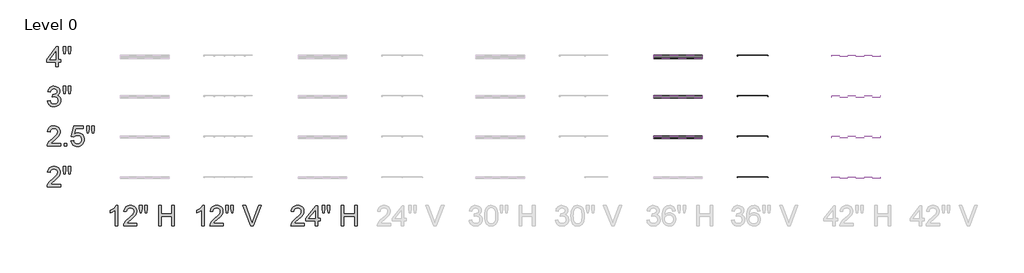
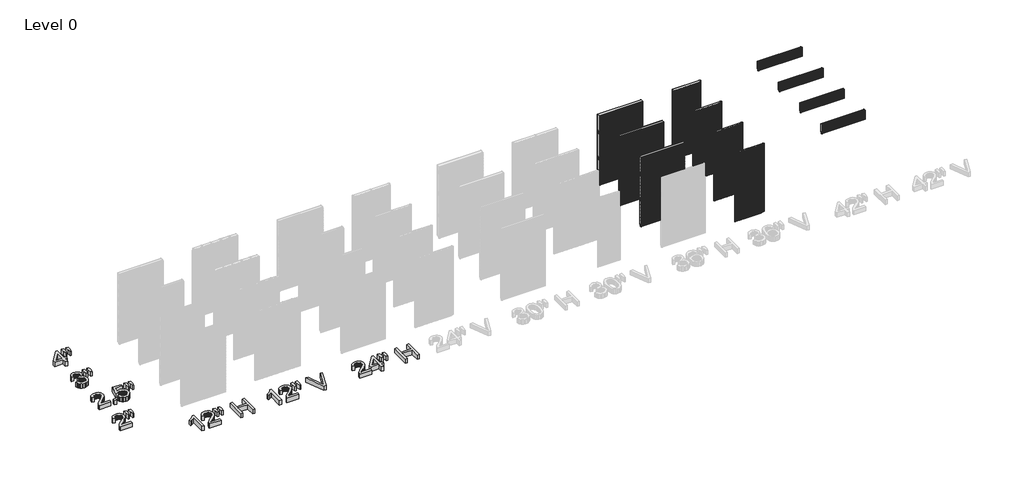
# One storey, part 2 of 5: 17 plates, 7 proxies.
"""IFC4 building model written with IfcOpenShell, lengths in millimetres."""

from ifc_helpers import new_model, si_unit, origin, origin_with_axes, place, context, project, spatial, polyline, outline, extrude, transform, mapped, element, save
from components import plate_b97aee9c, plate_4d02904b, plate_efaa990c, plate_620f6e40, plate_b1f4f1eb, plate_d8378e91, plate_09c6d2a2, plate_baafb094, plate_5e6ddfeb, plate_7fbdcfde, plate_18ae859f, plate_464a89f8, plate_1cd7e0af, plate_575d542c, plate_975cc697, plate_d0f07226, plate_676ee9c5, plate_adb39f1a

model = new_model("IFC4")

# Units and contexts
model_context = context("Model", 3, world=origin())
ifc_project = project(units=[si_unit("LENGTHUNIT", "METRE", prefix="MILLI")], contexts=[model_context])

# Site, building, storey
site = spatial("IfcSite", under=ifc_project)
building = spatial("IfcBuilding", under=site)
storey = spatial("IfcBuildingStorey", under=building, Name="Level 0", Elevation=0.0)

# Proxies
placement = place(None, origin())
element("IfcBuildingElementProxy", 1, Name="24\" Arial", ObjectType="24\" Arial", at=placement, inside=storey, context=model_context, shape_type="SweptSolid", body=[
    extrude(outline(polyline([(-32312.5108068, 10658.7692936), (-32312.5108068, 10582.6275201), (-32712.2551178, 10582.6275201), (-32710.5820807, 10609.433291), (-32704.0758257, 10635.1237038), (-32685.3006325, 10676.1502893), (-32657.8256469, 10715.949981), (-32618.0817231, 10757.6086027), (-32562.4997156, 10804.2119782), (-32480.3350088, 10877.1935707), (-32431.0361847, 10931.0653626), (-32416.657361, 10953.075094), (-32406.3867727, 10974.7873966), (-32400.2244197, 10996.2022704), (-32398.170302, 11017.3197154), (-32400.1082366, 11037.18703), (-32405.9220402, 11055.4463701), (-32415.6117129, 11072.0977357), (-32429.1772547, 11087.1411269), (-32445.8657989, 11099.6006053), (-32464.9244789, 11108.5002328), (-32486.3532947, 11113.8400093), (-32510.1522463, 11115.6199347), (-32535.2245649, 11113.8818352), (-32557.6479082, 11108.6675365), (-32577.4222763, 11099.9770386), (-32594.5476691, 11087.8103417), (-32608.401345, 11072.5764102), (-32618.3605626, 11054.6842088), (-32624.4253218, 11034.1337374), (-32626.5956226, 11010.9249962), (-32702.7373961, 11020.4427178), (-32696.1893151, 11059.7497931), (-32684.278221, 11094.0935251), (-32667.0041138, 11123.4739141), (-32644.3669935, 11147.8909598), (-32616.8873605, 11167.0844123), (-32585.0857153, 11180.7940212), (-32548.9620577, 11189.0197865), (-32508.5163878, 11191.7617083), (-32467.7082266, 11188.713063), (-32431.3893814, 11179.5671273), (-32399.5598522, 11164.3239012), (-32372.219639, 11142.9833846), (-32350.2610281, 11117.1256681), (-32334.5763061, 11088.3308421), (-32325.1654729, 11056.5989067), (-32322.0285285, 11021.9298619), (-32325.4117811, 10985.5134228), (-32335.561539, 10949.72902), (-32353.5745709, 10913.3311702), (-32380.5476454, 10875.0743905), (-32423.5446967, 10829.4004799), (-32489.6296589, 10770.7512379), (-32577.2224413, 10697.5093952), (-32611.575468, 10658.7692936), (-32312.5108068, 10658.7692936)])), origin_with_axes(), (0.0, 0.0, 1.0), 152.4),
    extrude(outline(polyline([(-32217.7797331, 10972.8541094), (-32236.3690333, 11090.4872009), (-32236.3690333, 11191.7617083), (-32160.2272598, 11191.7617083), (-32160.2272598, 11090.4872009), (-32176.8832727, 10972.8541094), (-32217.7797331, 10972.8541094)])), origin_with_axes(), (0.0, 0.0, 1.0), 152.4),
    extrude(outline(polyline([(-32065.9423293, 10972.8541094), (-32084.0854862, 11090.4872009), (-32084.0854862, 11191.7617083), (-32007.9437127, 11191.7617083), (-32007.9437127, 11090.4872009), (-32025.7894409, 10972.8541094), (-32065.9423293, 10972.8541094)])), origin_with_axes(), (0.0, 0.0, 1.0), 152.4),
])
element("IfcBuildingElementProxy", 2, Name="24\" Arial", ObjectType="24\" Arial", at=placement, inside=storey, context=model_context, shape_type="SweptSolid", body=[
    extrude(outline(polyline([(-32312.5108068, 11877.9692936), (-32312.5108068, 11801.8275201), (-32712.2551178, 11801.8275201), (-32710.5820807, 11828.633291), (-32704.0758257, 11854.3237038), (-32685.3006325, 11895.3502893), (-32657.8256469, 11935.149981), (-32618.0817231, 11976.8086027), (-32562.4997156, 12023.4119782), (-32480.3350088, 12096.3935707), (-32431.0361847, 12150.2653626), (-32416.657361, 12172.275094), (-32406.3867727, 12193.9873966), (-32400.2244197, 12215.4022704), (-32398.170302, 12236.5197154), (-32400.1082366, 12256.38703), (-32405.9220402, 12274.6463701), (-32415.6117129, 12291.2977357), (-32429.1772547, 12306.3411269), (-32445.8657989, 12318.8006053), (-32464.9244789, 12327.7002328), (-32486.3532947, 12333.0400093), (-32510.1522463, 12334.8199347), (-32535.2245649, 12333.0818352), (-32557.6479082, 12327.8675365), (-32577.4222763, 12319.1770386), (-32594.5476691, 12307.0103417), (-32608.401345, 12291.7764102), (-32618.3605626, 12273.8842088), (-32624.4253218, 12253.3337374), (-32626.5956226, 12230.1249962), (-32702.7373961, 12239.6427178), (-32696.1893151, 12278.9497931), (-32684.278221, 12313.2935251), (-32667.0041138, 12342.6739141), (-32644.3669935, 12367.0909598), (-32616.8873605, 12386.2844123), (-32585.0857153, 12399.9940212), (-32548.9620577, 12408.2197865), (-32508.5163878, 12410.9617083), (-32467.7082266, 12407.913063), (-32431.3893814, 12398.7671273), (-32399.5598522, 12383.5239012), (-32372.219639, 12362.1833846), (-32350.2610281, 12336.3256681), (-32334.5763061, 12307.5308421), (-32325.1654729, 12275.7989067), (-32322.0285285, 12241.1298619), (-32325.4117811, 12204.7134228), (-32335.561539, 12168.92902), (-32353.5745709, 12132.5311702), (-32380.5476454, 12094.2743905), (-32423.5446967, 12048.6004799), (-32489.6296589, 11989.9512379), (-32577.2224413, 11916.7093952), (-32611.575468, 11877.9692936), (-32312.5108068, 11877.9692936)])), origin_with_axes(), (0.0, 0.0, 1.0), 152.4),
    extrude(outline(polyline([(-32198.2981465, 11801.8275201), (-32198.2981465, 11877.9692936), (-32122.156373, 11877.9692936), (-32122.156373, 11801.8275201), (-32198.2981465, 11801.8275201)])), origin_with_axes(), (0.0, 0.0, 1.0), 152.4),
    extrude(outline(polyline([(-31998.425991, 11963.6287888), (-31922.2842175, 11973.1465105), (-31916.5958917, 11948.6690495), (-31908.3050638, 11927.4354214), (-31897.4117339, 11909.4456262), (-31883.915902, 11894.6996638), (-31867.845452, 11883.2161236), (-31849.2282678, 11875.0135949), (-31828.0643496, 11870.0920777), (-31804.3536972, 11868.4515719), (-31775.3543889, 11870.7334085), (-31749.7755119, 11877.5789183), (-31727.6170661, 11888.9881013), (-31708.8790515, 11904.9609575), (-31693.9797274, 11924.7074416), (-31683.3373531, 11947.4375084), (-31676.9519285, 11973.1511579), (-31674.8234536, 12001.84839), (-31676.817156, 12028.970179), (-31682.7982634, 12053.0805013), (-31692.7667756, 12074.179357), (-31706.7226927, 12092.2667461), (-31724.7124879, 12106.7756948), (-31746.7826346, 12117.1392297), (-31772.9331326, 12123.3573506), (-31803.163982, 12125.4300576), (-31840.1009215, 12122.1211621), (-31870.0111054, 12112.1944758), (-31893.8983562, 12096.9884283), (-31912.7664958, 12077.8414491), (-31988.9082694, 12087.3591708), (-31922.2842175, 12401.4439866), (-31627.2348451, 12401.4439866), (-31627.2348451, 12325.3022131), (-31860.7164553, 12325.3022131), (-31893.2849093, 12157.5523683), (-31866.4140758, 12176.8108833), (-31838.8926169, 12190.5669654), (-31810.7205325, 12198.8206147), (-31781.8978226, 12201.5718311), (-31744.8168161, 12198.1606945), (-31710.7565708, 12187.9272848), (-31679.7170869, 12170.8716018), (-31651.6983642, 12146.9936458), (-31628.5035649, 12117.7526766), (-31611.9358511, 12084.6079544), (-31601.9952228, 12047.5594791), (-31598.6816801, 12006.6072509), (-31601.6652628, 11967.1607559), (-31610.6160108, 11930.4654773), (-31625.5339242, 11896.5214152), (-31646.4190029, 11865.3285695), (-31678.0579918, 11833.3828572), (-31714.976342, 11810.5644912), (-31757.1740534, 11796.8734716), (-31804.651126, 11792.3097984), (-31843.9442593, 11795.2422605), (-31879.4358806, 11804.0396468), (-31911.1259901, 11818.7019574), (-31939.0145877, 11839.2291921), (-31962.2186816, 11864.5989395), (-31979.8552802, 11893.7887881), (-31991.9243833, 11926.7987379), (-31998.425991, 11963.6287888)])), origin_with_axes(), (0.0, 0.0, 1.0), 152.4),
    extrude(outline(polyline([(-31513.4683281, 12192.0541094), (-31532.0576283, 12309.6872009), (-31532.0576283, 12410.9617083), (-31455.9158547, 12410.9617083), (-31455.9158547, 12309.6872009), (-31472.5718677, 12192.0541094), (-31513.4683281, 12192.0541094)])), origin_with_axes(), (0.0, 0.0, 1.0), 152.4),
    extrude(outline(polyline([(-31361.6309242, 12192.0541094), (-31379.7740812, 12309.6872009), (-31379.7740812, 12410.9617083), (-31303.6323077, 12410.9617083), (-31303.6323077, 12309.6872009), (-31321.4780359, 12192.0541094), (-31361.6309242, 12192.0541094)])), origin_with_axes(), (0.0, 0.0, 1.0), 152.4),
])
element("IfcBuildingElementProxy", 3, Name="24\" Arial", ObjectType="24\" Arial", at=placement, inside=storey, context=model_context, shape_type="SweptSolid", body=[
    extrude(outline(polyline([(-32702.7373961, 13157.4287888), (-32626.5956226, 13166.9465105), (-32609.5492343, 13119.0976519), (-32598.0563995, 13101.0009682), (-32584.5838042, 13086.7894482), (-32568.8247249, 13076.0541273), (-32550.4724383, 13068.386041), (-32529.5269444, 13063.7851892), (-32505.988243, 13062.2515719), (-32478.4017216, 13064.3614575), (-32453.7894881, 13070.6911142), (-32432.1515427, 13081.2405421), (-32413.4878854, 13096.0097411), (-32398.4584362, 13113.8926478), (-32387.7231153, 13133.783199), (-32381.2819228, 13155.6813946), (-32379.1348586, 13179.5872347), (-32381.2633335, 13202.35448), (-32387.6487581, 13223.0676078), (-32398.2911325, 13241.7266178), (-32413.1904565, 13258.3315102), (-32431.3707921, 13271.9621145), (-32451.8562009, 13281.6982605), (-32474.6466829, 13287.5399481), (-32499.7422382, 13289.4871773), (-32523.7967926, 13287.4051757), (-32553.1307083, 13281.1591708), (-32544.6539874, 13357.3009443), (-32532.4594065, 13356.4086579), (-32486.8412638, 13361.8739122), (-32446.0563393, 13378.2696749), (-32429.2702012, 13390.6687381), (-32417.2801026, 13406.0049108), (-32410.0860434, 13424.2781929), (-32407.6880237, 13445.4885844), (-32409.4261233, 13462.7069236), (-32414.640422, 13478.3730564), (-32423.3309198, 13492.4869825), (-32435.4976168, 13505.0487021), (-32450.4062355, 13515.3611164), (-32467.3224987, 13522.7271266), (-32486.2464062, 13527.1467327), (-32507.1779582, 13528.6199347), (-32528.0537423, 13527.1327907), (-32547.107775, 13522.6713587), (-32564.3400563, 13515.2356386), (-32579.7505861, 13504.8256305), (-32592.9582839, 13491.4413344), (-32603.5820689, 13475.0827502), (-32611.6219413, 13455.7498781), (-32617.0779009, 13433.4427178), (-32693.2196744, 13442.9604395), (-32684.1945692, 13479.311816), (-32670.8009784, 13511.3318856), (-32653.0389021, 13539.0206482), (-32630.9083402, 13562.3781039), (-32605.1063916, 13580.9209308), (-32576.3301549, 13594.1658072), (-32544.5796302, 13602.112733), (-32509.8548175, 13604.7617083), (-32461.9873695, 13599.5381149), (-32418.0236746, 13583.8673349), (-32380.95661, 13559.1435656), (-32353.7790532, 13526.7610047), (-32337.1044509, 13489.4522793), (-32331.5462502, 13449.9500164), (-32336.8256114, 13413.1432021), (-32352.6636952, 13379.7568189), (-32378.8374298, 13351.3151897), (-32415.1237438, 13329.3426369), (-32389.749349, 13321.4050057), (-32367.4607781, 13310.0841219), (-32348.258031, 13295.3799854), (-32332.1411078, 13277.2925964), (-32319.3888479, 13256.2680979), (-32310.2800908, 13232.7526332), (-32304.8148365, 13206.7462022), (-32302.9930851, 13178.248805), (-32306.6365879, 13139.6202393), (-32317.5670964, 13104.0403187), (-32335.7846106, 13071.5090434), (-32361.2891305, 13042.0264134), (-32392.3611457, 13017.5628943), (-32427.2811461, 13000.0889522), (-32466.0491316, 12989.6045869), (-32508.6651022, 12986.1097984), (-32547.1821322, 12989.0933811), (-32582.2787309, 12998.0441291), (-32613.9548984, 13012.9620425), (-32642.2106347, 13033.8471213), (-32665.9026978, 13059.4724716), (-32683.8878457, 13088.6111996), (-32696.1660785, 13121.2633054), (-32702.7373961, 13157.4287888)])), origin_with_axes(), (0.0, 0.0, 1.0), 152.4),
    extrude(outline(polyline([(-32217.7797331, 13385.8541094), (-32236.3690333, 13503.4872009), (-32236.3690333, 13604.7617083), (-32160.2272598, 13604.7617083), (-32160.2272598, 13503.4872009), (-32176.8832727, 13385.8541094), (-32217.7797331, 13385.8541094)])), origin_with_axes(), (0.0, 0.0, 1.0), 152.4),
    extrude(outline(polyline([(-32065.9423293, 13385.8541094), (-32084.0854862, 13503.4872009), (-32084.0854862, 13604.7617083), (-32007.9437127, 13604.7617083), (-32007.9437127, 13503.4872009), (-32025.7894409, 13385.8541094), (-32065.9423293, 13385.8541094)])), origin_with_axes(), (0.0, 0.0, 1.0), 152.4),
])
element("IfcBuildingElementProxy", 4, Name="24\" Arial", ObjectType="24\" Arial", at=placement, inside=storey, context=model_context, shape_type="SweptSolid", body=[
    extrude(outline(polyline([(-32455.2766321, 14189.4275201), (-32455.2766321, 14332.1933455), (-32731.2905611, 14332.1933455), (-32731.2905611, 14408.335119), (-32436.2411888, 14789.0439866), (-32379.1348586, 14789.0439866), (-32379.1348586, 14408.335119), (-32302.9930851, 14408.335119), (-32302.9930851, 14332.1933455), (-32379.1348586, 14332.1933455), (-32379.1348586, 14189.4275201), (-32455.2766321, 14189.4275201)]), holes=[polyline([(-32455.2766321, 14408.335119), (-32455.2766321, 14643.601302), (-32637.6004883, 14408.335119), (-32455.2766321, 14408.335119)])]), origin_with_axes(), (0.0, 0.0, 1.0), 152.4),
    extrude(outline(polyline([(-32217.7797331, 14579.6541094), (-32236.3690333, 14697.2872009), (-32236.3690333, 14798.5617083), (-32160.2272598, 14798.5617083), (-32160.2272598, 14697.2872009), (-32176.8832727, 14579.6541094), (-32217.7797331, 14579.6541094)])), origin_with_axes(), (0.0, 0.0, 1.0), 152.4),
    extrude(outline(polyline([(-32065.9423293, 14579.6541094), (-32084.0854862, 14697.2872009), (-32084.0854862, 14798.5617083), (-32007.9437127, 14798.5617083), (-32007.9437127, 14697.2872009), (-32025.7894409, 14579.6541094), (-32065.9423293, 14579.6541094)])), origin_with_axes(), (0.0, 0.0, 1.0), 152.4),
])
element("IfcBuildingElementProxy", 5, Name="24\" Arial", ObjectType="24\" Arial", at=placement, inside=storey, context=model_context, shape_type="SweptSolid", body=[
    extrude(outline(polyline([(-30589.8489204, 9409.440542), (-30665.9906939, 9409.440542), (-30665.9906939, 9884.1369113), (-30697.7783972, 9858.4279091), (-30738.1171786, 9832.7560856), (-30780.4636044, 9810.3188003), (-30818.2742409, 9794.3134128), (-30818.2742409, 9866.2911831), (-30758.4724623, 9898.8224584), (-30706.6640827, 9937.5253814), (-30665.8233902, 9978.682092), (-30638.9246728, 10018.5747302), (-30589.8489204, 10018.5747302), (-30589.8489204, 9409.440542)])), origin_with_axes(), (0.0, 0.0, 1.0), 152.4),
    extrude(outline(polyline([(-30018.785619, 9485.5823155), (-30018.785619, 9409.440542), (-30418.52993, 9409.440542), (-30416.8568929, 9436.2463129), (-30410.3506379, 9461.9367257), (-30391.5754447, 9502.9633112), (-30364.100459, 9542.7630029), (-30324.3565353, 9584.4216246), (-30268.7745278, 9631.0250001), (-30186.609821, 9704.0065926), (-30137.3109969, 9757.8783845), (-30122.9321732, 9779.8881159), (-30112.6615849, 9801.6004185), (-30106.4992319, 9823.0152923), (-30104.4451142, 9844.1327373), (-30106.3830487, 9864.0000519), (-30112.1968524, 9882.259392), (-30121.8865251, 9898.9107576), (-30135.4520669, 9913.9541488), (-30152.1406111, 9926.4136272), (-30171.1992911, 9935.3132547), (-30192.6281069, 9940.6530311), (-30216.4270585, 9942.4329566), (-30241.4993771, 9940.6948571), (-30263.9227204, 9935.4805584), (-30283.6970885, 9926.7900605), (-30300.8224813, 9914.6233636), (-30314.6761572, 9899.3894321), (-30324.6353748, 9881.4972307), (-30330.700134, 9860.9467593), (-30332.8704348, 9837.7380181), (-30409.0122083, 9847.2557397), (-30402.4641273, 9886.562815), (-30390.5530332, 9920.906547), (-30373.278926, 9950.286936), (-30350.6418057, 9974.7039817), (-30323.1621727, 9993.8974342), (-30291.3605275, 10007.6070431), (-30255.2368699, 10015.8328084), (-30214.7912, 10018.5747302), (-30173.9830388, 10015.5260849), (-30137.6641936, 10006.3801492), (-30105.8346644, 9991.1369231), (-30078.4944512, 9969.7964065), (-30056.5358403, 9943.93869), (-30040.8511183, 9915.143864), (-30031.4402851, 9883.4119286), (-30028.3033407, 9848.7428838), (-30031.6865933, 9812.3264447), (-30041.8363512, 9776.5420419), (-30059.8493831, 9740.1441921), (-30086.8224576, 9701.8874124), (-30129.8195089, 9656.2135018), (-30195.9044711, 9597.5642598), (-30283.4972535, 9524.3224171), (-30317.8502802, 9485.5823155), (-30018.785619, 9485.5823155)])), origin_with_axes(), (0.0, 0.0, 1.0), 152.4),
    extrude(outline(polyline([(-29924.0545453, 9799.6671313), (-29942.6438455, 9917.3002228), (-29942.6438455, 10018.5747302), (-29866.502072, 10018.5747302), (-29866.502072, 9917.3002228), (-29883.1580849, 9799.6671313), (-29924.0545453, 9799.6671313)])), origin_with_axes(), (0.0, 0.0, 1.0), 152.4),
    extrude(outline(polyline([(-29772.2171415, 9799.6671313), (-29790.3602984, 9917.3002228), (-29790.3602984, 10018.5747302), (-29714.2185249, 10018.5747302), (-29714.2185249, 9917.3002228), (-29732.0642531, 9799.6671313), (-29772.2171415, 9799.6671313)])), origin_with_axes(), (0.0, 0.0, 1.0), 152.4),
    extrude(outline(polyline([(-29371.5805441, 9409.440542), (-29371.5805441, 10018.5747302), (-29295.4387706, 10018.5747302), (-29295.4387706, 9771.1139662), (-28971.8362331, 9771.1139662), (-28971.8362331, 10018.5747302), (-28895.6944596, 10018.5747302), (-28895.6944596, 9409.440542), (-28971.8362331, 9409.440542), (-28971.8362331, 9694.9721927), (-29295.4387706, 9694.9721927), (-29295.4387706, 9409.440542), (-29371.5805441, 9409.440542)])), origin_with_axes(), (0.0, 0.0, 1.0), 152.4),
])
element("IfcBuildingElementProxy", 6, Name="24\" Arial", ObjectType="24\" Arial", at=placement, inside=storey, context=model_context, shape_type="SweptSolid", body=[
    extrude(outline(polyline([(-27999.0489204, 9409.440542), (-28075.1906939, 9409.440542), (-28075.1906939, 9884.1369113), (-28106.9783972, 9858.4279091), (-28147.3171786, 9832.7560856), (-28189.6636044, 9810.3188003), (-28227.4742409, 9794.3134128), (-28227.4742409, 9866.2911831), (-28167.6724623, 9898.8224584), (-28115.8640827, 9937.5253814), (-28075.0233902, 9978.682092), (-28048.1246728, 10018.5747302), (-27999.0489204, 10018.5747302), (-27999.0489204, 9409.440542)])), origin_with_axes(), (0.0, 0.0, 1.0), 152.4),
    extrude(outline(polyline([(-27427.985619, 9485.5823155), (-27427.985619, 9409.440542), (-27827.72993, 9409.440542), (-27826.0568929, 9436.2463129), (-27819.5506379, 9461.9367257), (-27800.7754447, 9502.9633112), (-27773.300459, 9542.7630029), (-27733.5565353, 9584.4216246), (-27677.9745278, 9631.0250001), (-27595.809821, 9704.0065926), (-27546.5109969, 9757.8783845), (-27532.1321732, 9779.8881159), (-27521.8615849, 9801.6004185), (-27515.6992319, 9823.0152923), (-27513.6451142, 9844.1327373), (-27515.5830487, 9864.0000519), (-27521.3968524, 9882.259392), (-27531.0865251, 9898.9107576), (-27544.6520669, 9913.9541488), (-27561.3406111, 9926.4136272), (-27580.3992911, 9935.3132547), (-27601.8281069, 9940.6530311), (-27625.6270585, 9942.4329566), (-27650.6993771, 9940.6948571), (-27673.1227204, 9935.4805584), (-27692.8970885, 9926.7900605), (-27710.0224813, 9914.6233636), (-27723.8761572, 9899.3894321), (-27733.8353748, 9881.4972307), (-27739.900134, 9860.9467593), (-27742.0704348, 9837.7380181), (-27818.2122083, 9847.2557397), (-27811.6641273, 9886.562815), (-27799.7530332, 9920.906547), (-27782.478926, 9950.286936), (-27759.8418057, 9974.7039817), (-27732.3621727, 9993.8974342), (-27700.5605275, 10007.6070431), (-27664.4368699, 10015.8328084), (-27623.9912, 10018.5747302), (-27583.1830388, 10015.5260849), (-27546.8641936, 10006.3801492), (-27515.0346644, 9991.1369231), (-27487.6944512, 9969.7964065), (-27465.7358403, 9943.93869), (-27450.0511183, 9915.143864), (-27440.6402851, 9883.4119286), (-27437.5033407, 9848.7428838), (-27440.8865933, 9812.3264447), (-27451.0363512, 9776.5420419), (-27469.0493831, 9740.1441921), (-27496.0224576, 9701.8874124), (-27539.0195089, 9656.2135018), (-27605.1044711, 9597.5642598), (-27692.6972535, 9524.3224171), (-27727.0502802, 9485.5823155), (-27427.985619, 9485.5823155)])), origin_with_axes(), (0.0, 0.0, 1.0), 152.4),
    extrude(outline(polyline([(-27333.2545453, 9799.6671313), (-27351.8438455, 9917.3002228), (-27351.8438455, 10018.5747302), (-27275.702072, 10018.5747302), (-27275.702072, 9917.3002228), (-27292.3580849, 9799.6671313), (-27333.2545453, 9799.6671313)])), origin_with_axes(), (0.0, 0.0, 1.0), 152.4),
    extrude(outline(polyline([(-27181.4171415, 9799.6671313), (-27199.5602984, 9917.3002228), (-27199.5602984, 10018.5747302), (-27123.4185249, 10018.5747302), (-27123.4185249, 9917.3002228), (-27141.2642531, 9799.6671313), (-27181.4171415, 9799.6671313)])), origin_with_axes(), (0.0, 0.0, 1.0), 152.4),
    extrude(outline(polyline([(-26600.8361184, 9409.440542), (-26843.2405927, 10018.5747302), (-26761.7451007, 10018.5747302), (-26599.4976888, 9579.7185316), (-26566.6318061, 9480.8234547), (-26534.2120666, 9579.7185316), (-26371.5185114, 10018.5747302), (-26290.0230195, 10018.5747302), (-26522.1662001, 9409.440542), (-26600.8361184, 9409.440542)])), origin_with_axes(), (0.0, 0.0, 1.0), 152.4),
])
element("IfcBuildingElementProxy", 7, Name="24\" Arial", ObjectType="24\" Arial", at=placement, inside=storey, context=model_context, shape_type="SweptSolid", body=[
    extrude(outline(polyline([(-24998.7539818, 9485.5823155), (-24998.7539818, 9409.440542), (-25398.4982928, 9409.440542), (-25396.8252557, 9436.2463129), (-25390.3190007, 9461.9367257), (-25371.5438075, 9502.9633112), (-25344.0688218, 9542.7630029), (-25304.3248981, 9584.4216246), (-25248.7428905, 9631.0250001), (-25166.5781838, 9704.0065926), (-25117.2793597, 9757.8783845), (-25102.900536, 9779.8881159), (-25092.6299477, 9801.6004185), (-25086.4675947, 9823.0152923), (-25084.413477, 9844.1327373), (-25086.3514115, 9864.0000519), (-25092.1652152, 9882.259392), (-25101.8548879, 9898.9107576), (-25115.4204297, 9913.9541488), (-25132.1089739, 9926.4136272), (-25151.1676539, 9935.3132547), (-25172.5964697, 9940.6530311), (-25196.3954213, 9942.4329566), (-25221.4677399, 9940.6948571), (-25243.8910832, 9935.4805584), (-25263.6654513, 9926.7900605), (-25280.790844, 9914.6233636), (-25294.64452, 9899.3894321), (-25304.6037376, 9881.4972307), (-25310.6684968, 9860.9467593), (-25312.8387975, 9837.7380181), (-25388.9805711, 9847.2557397), (-25382.4324901, 9886.562815), (-25370.521396, 9920.906547), (-25353.2472888, 9950.286936), (-25330.6101685, 9974.7039817), (-25303.1305355, 9993.8974342), (-25271.3288903, 10007.6070431), (-25235.2052327, 10015.8328084), (-25194.7595628, 10018.5747302), (-25153.9514016, 10015.5260849), (-25117.6325564, 10006.3801492), (-25085.8030272, 9991.1369231), (-25058.462814, 9969.7964065), (-25036.5042031, 9943.93869), (-25020.8194811, 9915.143864), (-25011.4086479, 9883.4119286), (-25008.2717035, 9848.7428838), (-25011.6549561, 9812.3264447), (-25021.804714, 9776.5420419), (-25039.8177459, 9740.1441921), (-25066.7908204, 9701.8874124), (-25109.7878717, 9656.2135018), (-25175.8728339, 9597.5642598), (-25263.4656163, 9524.3224171), (-25297.818643, 9485.5823155), (-24998.7539818, 9485.5823155)])), origin_with_axes(), (0.0, 0.0, 1.0), 152.4),
    extrude(outline(polyline([(-24675.1514443, 9409.440542), (-24675.1514443, 9552.2063674), (-24951.1653733, 9552.2063674), (-24951.1653733, 9628.3481409), (-24656.116001, 10009.0570085), (-24599.0096708, 10009.0570085), (-24599.0096708, 9628.3481409), (-24522.8678973, 9628.3481409), (-24522.8678973, 9552.2063674), (-24599.0096708, 9552.2063674), (-24599.0096708, 9409.440542), (-24675.1514443, 9409.440542)]), holes=[polyline([(-24675.1514443, 9628.3481409), (-24675.1514443, 9863.6143239), (-24857.4753005, 9628.3481409), (-24675.1514443, 9628.3481409)])]), origin_with_axes(), (0.0, 0.0, 1.0), 152.4),
    extrude(outline(polyline([(-24437.6545453, 9799.6671313), (-24456.2438455, 9917.3002228), (-24456.2438455, 10018.5747302), (-24380.102072, 10018.5747302), (-24380.102072, 9917.3002228), (-24396.7580849, 9799.6671313), (-24437.6545453, 9799.6671313)])), origin_with_axes(), (0.0, 0.0, 1.0), 152.4),
    extrude(outline(polyline([(-24285.8171415, 9799.6671313), (-24303.9602984, 9917.3002228), (-24303.9602984, 10018.5747302), (-24227.8185249, 10018.5747302), (-24227.8185249, 9917.3002228), (-24245.6642531, 9799.6671313), (-24285.8171415, 9799.6671313)])), origin_with_axes(), (0.0, 0.0, 1.0), 152.4),
    extrude(outline(polyline([(-23885.1805441, 9409.440542), (-23885.1805441, 10018.5747302), (-23809.0387706, 10018.5747302), (-23809.0387706, 9771.1139662), (-23485.4362331, 9771.1139662), (-23485.4362331, 10018.5747302), (-23409.2944596, 10018.5747302), (-23409.2944596, 9409.440542), (-23485.4362331, 9409.440542), (-23485.4362331, 9694.9721927), (-23809.0387706, 9694.9721927), (-23809.0387706, 9409.440542), (-23885.1805441, 9409.440542)])), origin_with_axes(), (0.0, 0.0, 1.0), 152.4),
])

# Plates
plate_shape = plate_b97aee9c(model_context)
element("IfcPlate", 8, ObjectType="KIP-42-DWHR-R19-CP-Hz-S : Hz 2\"", at=placement, inside=storey, context=model_context, shape_type="MappedRepresentation", body=[
    mapped(plate_shape, transform((-8448.7250935, 10881.8207172, 2133.6), x_axis=(1.0, 0.0, 0.0), y_axis=(0.0, 1.0, 0.0), z_axis=(0.0, 0.0, 1.0))),
])
element("IfcPlate", 9, ObjectType="KIP-42-DWHR-R19-CP-Hz-S : Hz 2.5\"", at=placement, inside=storey, context=model_context, shape_type="MappedRepresentation", body=[
    mapped(plate_shape, transform((-8448.7250935, 12101.0207172, 2133.6), x_axis=(1.0, 0.0, 0.0), y_axis=(0.0, 1.0, 0.0), z_axis=(0.0, 0.0, 1.0))),
])
plate_2_shape = plate_4d02904b(model_context)
plate_3_shape = plate_efaa990c(model_context)
element("IfcPlate", 10, ObjectType="KIP-36-DWHR-R19-CP-Hz-S : Hz 2.5\"", at=placement, inside=storey, context=model_context, shape_type="MappedRepresentation", body=[
    mapped(plate_2_shape, transform((-13782.7250935, 12101.0207172, 0.0), x_axis=(1.0, 0.0, 0.0), y_axis=(0.0, 1.0, 0.0), z_axis=(0.0, 0.0, 1.0))),
    mapped(plate_3_shape, transform((-13782.7250935, 12101.0207172, 0.0), x_axis=(1.0, 0.0, 0.0), y_axis=(0.0, 1.0, 0.0), z_axis=(0.0, 0.0, 1.0))),
])
element("IfcPlate", 11, ObjectType="KIP-36-DWHR-R19-CP-Hz-S : Hz 2.5\"", at=placement, inside=storey, context=model_context, shape_type="MappedRepresentation", body=[
    mapped(plate_2_shape, transform((-13782.7250935, 12101.0207172, 914.4), x_axis=(1.0, 0.0, 0.0), y_axis=(0.0, 1.0, 0.0), z_axis=(0.0, 0.0, 1.0))),
    mapped(plate_3_shape, transform((-13782.7250935, 12101.0207172, 914.4), x_axis=(1.0, 0.0, 0.0), y_axis=(0.0, 1.0, 0.0), z_axis=(0.0, 0.0, 1.0))),
])
plate_4_shape = plate_620f6e40(model_context)
element("IfcPlate", 12, ObjectType="KIP-36-DWHR-R19-CP-Hz-S : Hz 2.5\"", at=placement, inside=storey, context=model_context, shape_type="MappedRepresentation", body=[
    mapped(plate_4_shape, transform((-13782.7250935, 12101.0207172, 1828.8), x_axis=(1.0, 0.0, 0.0), y_axis=(0.0, 1.0, 0.0), z_axis=(0.0, 0.0, 1.0))),
])
element("IfcPlate", 13, ObjectType="KIP-42-DWHR-R19-CP-Hz-S : Hz 3\"", at=placement, inside=storey, context=model_context, shape_type="MappedRepresentation", body=[
    mapped(plate_shape, transform((-8448.7250935, 13320.2207172, 2133.6), x_axis=(1.0, 0.0, 0.0), y_axis=(0.0, 1.0, 0.0), z_axis=(0.0, 0.0, 1.0))),
])
plate_5_shape = plate_b1f4f1eb(model_context)
plate_6_shape = plate_d8378e91(model_context)
element("IfcPlate", 14, ObjectType="KIP-36-DWHR-R19-CP-Hz-S : Hz 3\"", at=placement, inside=storey, context=model_context, shape_type="MappedRepresentation", body=[
    mapped(plate_5_shape, transform((-13782.7250935, 13320.2207172, 0.0), x_axis=(1.0, 0.0, 0.0), y_axis=(0.0, 1.0, 0.0), z_axis=(0.0, 0.0, 1.0))),
    mapped(plate_6_shape, transform((-13782.7250935, 13320.2207172, 0.0), x_axis=(1.0, 0.0, 0.0), y_axis=(0.0, 1.0, 0.0), z_axis=(0.0, 0.0, 1.0))),
])
element("IfcPlate", 15, ObjectType="KIP-36-DWHR-R19-CP-Hz-S : Hz 3\"", at=placement, inside=storey, context=model_context, shape_type="MappedRepresentation", body=[
    mapped(plate_5_shape, transform((-13782.7250935, 13320.2207172, 914.4), x_axis=(1.0, 0.0, 0.0), y_axis=(0.0, 1.0, 0.0), z_axis=(0.0, 0.0, 1.0))),
    mapped(plate_6_shape, transform((-13782.7250935, 13320.2207172, 914.4), x_axis=(1.0, 0.0, 0.0), y_axis=(0.0, 1.0, 0.0), z_axis=(0.0, 0.0, 1.0))),
])
plate_7_shape = plate_09c6d2a2(model_context)
element("IfcPlate", 16, ObjectType="KIP-36-DWHR-R19-CP-Hz-S : Hz 3\"", at=placement, inside=storey, context=model_context, shape_type="MappedRepresentation", body=[
    mapped(plate_7_shape, transform((-13782.7250935, 13320.2207172, 1828.8), x_axis=(1.0, 0.0, 0.0), y_axis=(0.0, 1.0, 0.0), z_axis=(0.0, 0.0, 1.0))),
])
element("IfcPlate", 17, ObjectType="KIP-42-DWHR-R19-CP-Hz-S : Hz 4\"", at=placement, inside=storey, context=model_context, shape_type="MappedRepresentation", body=[
    mapped(plate_shape, transform((-8448.7250935, 14539.4207172, 2133.6), x_axis=(1.0, 0.0, 0.0), y_axis=(0.0, 1.0, 0.0), z_axis=(0.0, 0.0, 1.0))),
])
plate_8_shape = plate_baafb094(model_context)
plate_9_shape = plate_5e6ddfeb(model_context)
element("IfcPlate", 18, ObjectType="KIP-36-DWHR-R19-CP-Hz-S : Hz 4\"", at=placement, inside=storey, context=model_context, shape_type="MappedRepresentation", body=[
    mapped(plate_8_shape, transform((-13782.7250935, 14539.4207172, 0.0), x_axis=(1.0, 0.0, 0.0), y_axis=(0.0, 1.0, 0.0), z_axis=(0.0, 0.0, 1.0))),
    mapped(plate_9_shape, transform((-13782.7250935, 14539.4207172, 0.0), x_axis=(1.0, 0.0, 0.0), y_axis=(0.0, 1.0, 0.0), z_axis=(0.0, 0.0, 1.0))),
])
element("IfcPlate", 19, ObjectType="KIP-36-DWHR-R19-CP-Hz-S : Hz 4\"", at=placement, inside=storey, context=model_context, shape_type="MappedRepresentation", body=[
    mapped(plate_8_shape, transform((-13782.7250935, 14539.4207172, 914.4), x_axis=(1.0, 0.0, 0.0), y_axis=(0.0, 1.0, 0.0), z_axis=(0.0, 0.0, 1.0))),
    mapped(plate_9_shape, transform((-13782.7250935, 14539.4207172, 914.4), x_axis=(1.0, 0.0, 0.0), y_axis=(0.0, 1.0, 0.0), z_axis=(0.0, 0.0, 1.0))),
])
plate_10_shape = plate_7fbdcfde(model_context)
element("IfcPlate", 20, ObjectType="KIP-36-DWHR-R19-CP-Hz-S : Hz 4\"", at=placement, inside=storey, context=model_context, shape_type="MappedRepresentation", body=[
    mapped(plate_10_shape, transform((-13782.7250935, 14539.4207172, 1828.8), x_axis=(1.0, 0.0, 0.0), y_axis=(0.0, 1.0, 0.0), z_axis=(0.0, 0.0, 1.0))),
])
plate_11_shape = plate_18ae859f(model_context)
plate_12_shape = plate_464a89f8(model_context)
element("IfcPlate", 21, ObjectType="KIP-36-DWHR-R19-CP-Vt-S : Vt 2\"", at=placement, inside=storey, context=model_context, shape_type="MappedRepresentation", body=[
    mapped(plate_11_shape, transform((-11555.7413834, 10881.8207172, 0.0), x_axis=(1.0, 0.0, 0.0), y_axis=(0.0, 1.0, 0.0), z_axis=(0.0, 0.0, 1.0))),
    mapped(plate_12_shape, transform((-11555.7413834, 10881.8207172, 0.0), x_axis=(1.0, 0.0, 0.0), y_axis=(0.0, 1.0, 0.0), z_axis=(0.0, 0.0, 1.0))),
])
plate_13_shape = plate_1cd7e0af(model_context)
plate_14_shape = plate_575d542c(model_context)
element("IfcPlate", 22, ObjectType="KIP-36-DWHR-R19-CP-Vt-S : Vt 2.5\"", at=placement, inside=storey, context=model_context, shape_type="MappedRepresentation", body=[
    mapped(plate_13_shape, transform((-11555.7413834, 12101.0207172, 0.0), x_axis=(1.0, 0.0, 0.0), y_axis=(0.0, 1.0, 0.0), z_axis=(0.0, 0.0, 1.0))),
    mapped(plate_14_shape, transform((-11555.7413834, 12101.0207172, 0.0), x_axis=(1.0, 0.0, 0.0), y_axis=(0.0, 1.0, 0.0), z_axis=(0.0, 0.0, 1.0))),
])
plate_15_shape = plate_975cc697(model_context)
plate_16_shape = plate_d0f07226(model_context)
element("IfcPlate", 23, ObjectType="KIP-36-DWHR-R19-CP-Vt-S : Vt 3\"", at=placement, inside=storey, context=model_context, shape_type="MappedRepresentation", body=[
    mapped(plate_15_shape, transform((-11555.7413834, 13320.2207172, 0.0), x_axis=(1.0, 0.0, 0.0), y_axis=(0.0, 1.0, 0.0), z_axis=(0.0, 0.0, 1.0))),
    mapped(plate_16_shape, transform((-11555.7413834, 13320.2207172, 0.0), x_axis=(1.0, 0.0, 0.0), y_axis=(0.0, 1.0, 0.0), z_axis=(0.0, 0.0, 1.0))),
])
plate_17_shape = plate_676ee9c5(model_context)
plate_18_shape = plate_adb39f1a(model_context)
element("IfcPlate", 24, ObjectType="KIP-36-DWHR-R19-CP-Vt-S : Vt 4\"", at=placement, inside=storey, context=model_context, shape_type="MappedRepresentation", body=[
    mapped(plate_17_shape, transform((-11555.7413834, 14539.4207172, 0.0), x_axis=(1.0, 0.0, 0.0), y_axis=(0.0, 1.0, 0.0), z_axis=(0.0, 0.0, 1.0))),
    mapped(plate_18_shape, transform((-11555.7413834, 14539.4207172, 0.0), x_axis=(1.0, 0.0, 0.0), y_axis=(0.0, 1.0, 0.0), z_axis=(0.0, 0.0, 1.0))),
])

save(model, "model.ifc")
